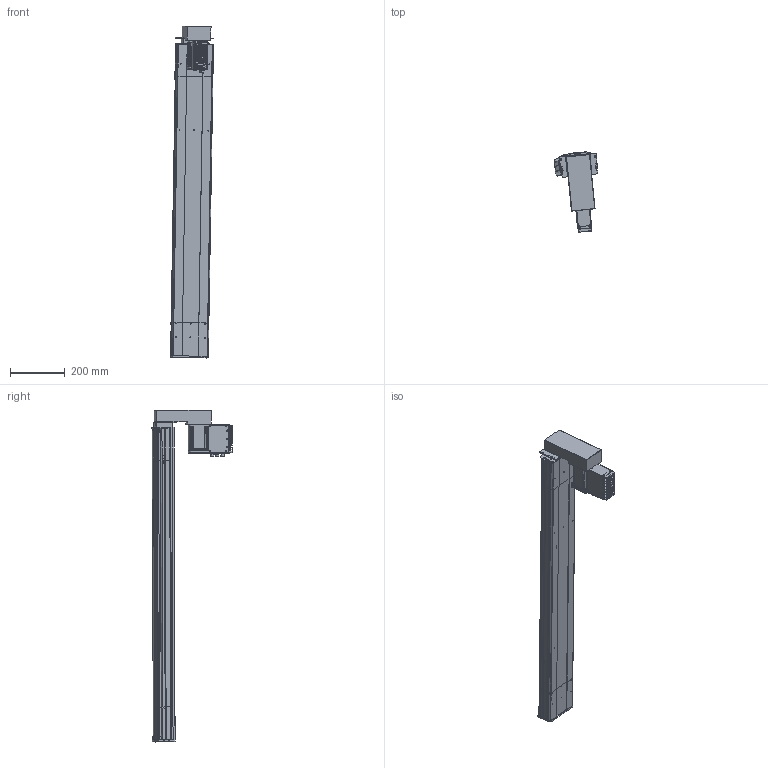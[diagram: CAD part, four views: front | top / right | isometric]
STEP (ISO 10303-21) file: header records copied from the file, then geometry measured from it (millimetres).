
FILE_DESCRIPTION (( 'STEP AP203' ), '1' );
FILE_NAME ('D14 TSH M4 BM L10 S900.STEP', '2012-10-11T12:10:33', ( '' ), ( '' ), 'SwSTEP 2.0', 'SolidWorks 2010', '' );
FILE_SCHEMA (( 'CONFIG_CONTROL_DESIGN' ));
Length unit declared in the file: millimetre
Products named in the file (22): Tôle Arrière_2; corpl tail D14_Default_2; Connecteur rond D10 3cts_2; Couvercle_2; Radiateur_2; plaque de bout head D14 BM; Vis TF 3 torkx_2; D14 TSH M4 BM L10 S900; corp head D14_Default_2; plaque de  bout head D14 MD_Default_2; Moteur_2; T犨e contre le moteur_2; Sub D 9cts_2; T犨e fond_2; Tôle latérale_2; Connecteur rond D12 4cts_2; Moteur 70BLDC90A_2; Colonnette_2; plaque de  bout tail D14_Default_2; couvercle D14 head_Default_2; Pièce902; Pièce900
Assembly tree (49 placements, depth 3):
  D14 TSH M4 BM L10 S900
    couvercle D14 head_Default_2  x2
    corpl tail D14_Default_2
    plaque de  bout head D14 MD_Default_2
    plaque de bout head D14 BM
    corp head D14_Default_2
    plaque de  bout tail D14_Default_2
    Moteur_2
      Vis TF 3 torkx_2  x26
      Tôle latérale_2  x2
      Couvercle_2
      Connecteur rond D12 4cts_2
      T犨e contre le moteur_2
      Sub D 9cts_2
      Connecteur rond D10 3cts_2  x2
      Colonnette_2
      Tôle Arrière_2
      Moteur 70BLDC90A_2
      Radiateur_2
      T犨e fond_2
    Pièce900
    Pièce902
Bounding box: 159.44 x 294.6 x 1213.98 mm (x, y, z)
Volume: 4608368.1 mm3; surface area: 1393996.9 mm2
Topology: 70 solids, 70 shells, 2415 faces, 6303 edges, 4155 vertices
Faces by surface type: plane 1300, cylinder 851, cone 134, bspline 130
Entity records: 64759 total; most frequent: CARTESIAN_POINT 20869, ORIENTED_EDGE 8564, DIRECTION 8203, EDGE_CURVE 4282, VECTOR 2853, LINE 2853, VERTEX_POINT 2829, AXIS2_PLACEMENT_3D 2675
